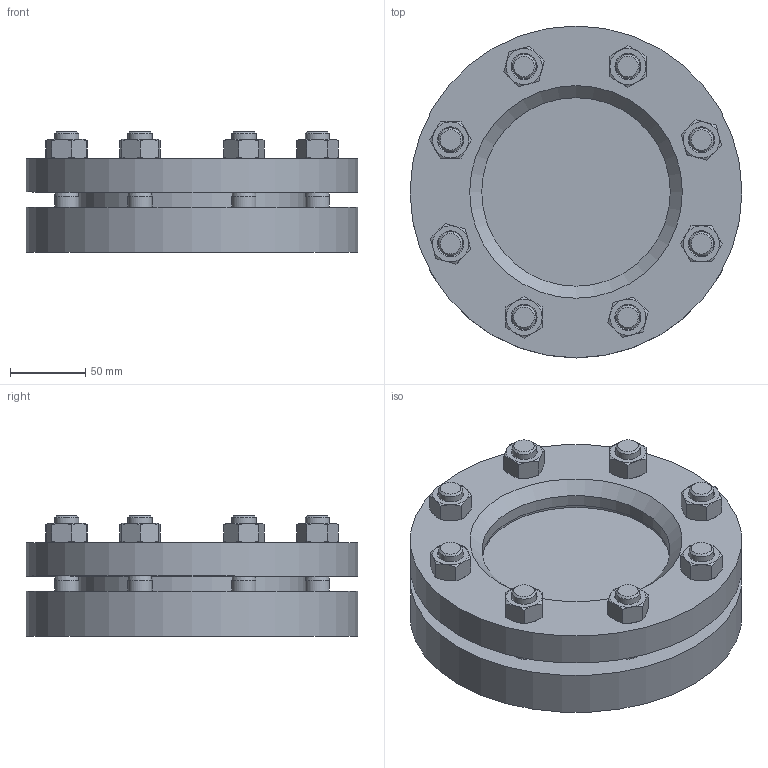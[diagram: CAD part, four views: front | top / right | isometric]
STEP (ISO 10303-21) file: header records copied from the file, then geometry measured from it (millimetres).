
FILE_DESCRIPTION(/* description */ ('Unknown'),/* implementation_level */ '2;1');
FILE_NAME(/* name */ 'Armatur 28120 DN 100 PN10',/* time_stamp */ '2016-08-08T07:33:47+02:00',/* author */ ('Unknown'),/* organization */ ('Unknown'),/* preprocessor_version */ 'ST-DEVELOPER v16.7',/* originating_system */ 'DEX',/* authorisation */ $);
FILE_SCHEMA (('AUTOMOTIVE_DESIGN {1 0 10303 214 3 1 1}'));
Length unit declared in the file: millimetre
Products named in the file (7): 0206.083.38_01; 1345.003.38_01; 0863.177.38_01; 1775.120.38_01; 1346.303.38_01; Stud_DIN_938_1995_CC_M16x50_v12.00; Nut_DIN_934_1987_M16_v10.50
Assembly tree (21 placements, depth 2):
  0206.083.38_01
    1345.003.38_01
    0863.177.38_01  x2
    1775.120.38_01
    1346.303.38_01
    Stud_DIN_938_1995_CC_M16x50_v12.00  x8
    Nut_DIN_934_1987_M16_v10.50  x8
Bounding box: 220 x 220 x 80 mm (x, y, z)
Volume: 1629506.8 mm3; surface area: 286755.8 mm2
Topology: 21 solids, 21 shells, 251 faces, 529 edges, 322 vertices
Faces by surface type: plane 92, cone 92, cylinder 67
Full cylindrical faces by diameter (mm): 13.835 x24, 16 x24, 18 x8, 125 x4, 150 x1, 152 x2, 153 x2, 220 x2
Entity records: 2794 total; most frequent: CARTESIAN_POINT 651, DIRECTION 364, ORIENTED_EDGE 192, AXIS2_PLACEMENT_3D 179, FACE_BOUND 172, EDGE_LOOP 164, VERTEX_POINT 98, EDGE_CURVE 96
